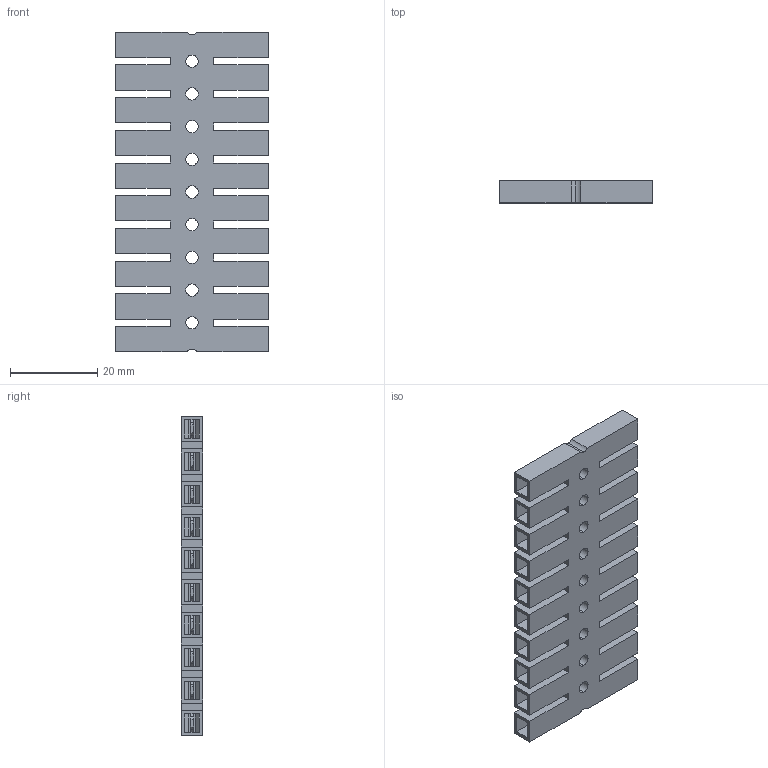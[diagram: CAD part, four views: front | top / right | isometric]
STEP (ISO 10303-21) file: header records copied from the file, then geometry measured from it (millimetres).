
FILE_DESCRIPTION (( 'STEP AP203' ), '1' );
FILE_NAME ('444-B-10.STEP', '2019-01-25T03:31:46', ( '' ), ( '' ), 'SwSTEP 2.0', 'SolidWorks 2016', '' );
FILE_SCHEMA (( 'CONFIG_CONTROL_DESIGN' ));
Length unit declared in the file: millimetre
Products named in the file (1): 444-B-10
Bounding box: 35 x 5 x 73.3 mm (x, y, z)
Volume: 6556.8 mm3; surface area: 14008.9 mm2
Topology: 1 solids, 1 shells, 551 faces, 1537 edges, 998 vertices
Faces by surface type: plane 490, cylinder 61
Entity records: 17586 total; most frequent: CARTESIAN_POINT 3087, ORIENTED_EDGE 3074, DIRECTION 2763, EDGE_CURVE 1537, VECTOR 1415, LINE 1415, VERTEX_POINT 998, AXIS2_PLACEMENT_3D 674
